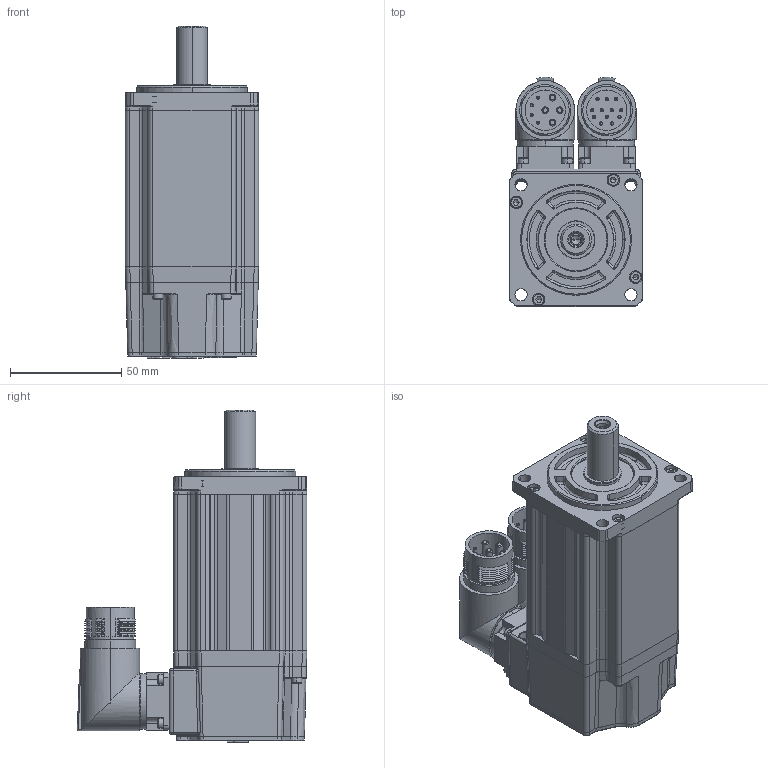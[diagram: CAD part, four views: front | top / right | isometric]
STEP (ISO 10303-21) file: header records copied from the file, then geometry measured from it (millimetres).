
FILE_DESCRIPTION (( 'STEP AP203' ), '1' );
FILE_NAME ('MC20-060-3L30-N201-1¡õPL-NNNN.STEP', '2025-07-29T14:35:13', ( '' ), ( '' ), 'SwSTEP 2.0', 'SolidWorks 2014', '' );
FILE_SCHEMA (( 'CONFIG_CONTROL_DESIGN' ));
Length unit declared in the file: millimetre
Products named in the file (1): MC20-060-3L30-N201-1¡õPL-NNNN
Bounding box: 60 x 103.37 x 149.5 mm (x, y, z)
Volume: 440391.8 mm3; surface area: 93583.1 mm2
Topology: 23 solids, 23 shells, 1853 faces, 4394 edges, 2658 vertices
Faces by surface type: plane 737, cylinder 506, cone 333, bspline 131, torus 126, sphere 20
Entity records: 55402 total; most frequent: CARTESIAN_POINT 13567, DIRECTION 8774, ORIENTED_EDGE 8656, EDGE_CURVE 4328, AXIS2_PLACEMENT_3D 3336, VERTEX_POINT 2658, VECTOR 2102, LINE 2102
